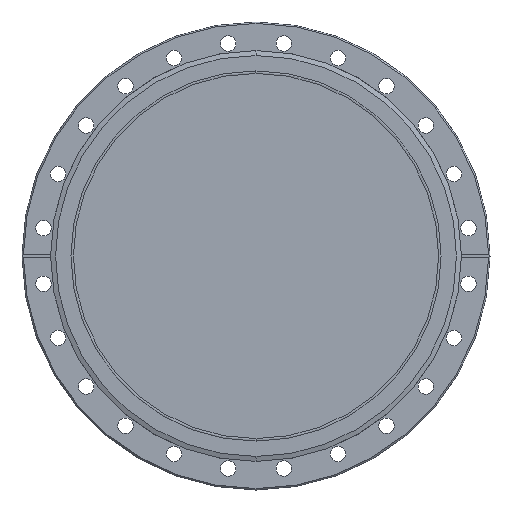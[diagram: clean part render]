
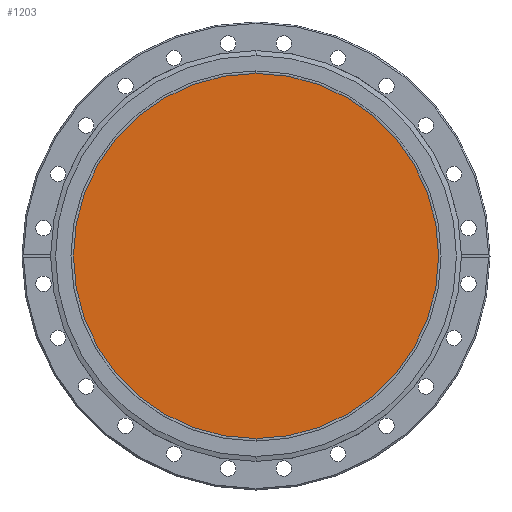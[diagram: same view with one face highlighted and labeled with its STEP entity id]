
A CAD part, left-side view. The second image highlights one B-rep face of the part: STEP entity #1203.
In plain terms, the highlighted planar face has unit normal (-1, 0, 0).
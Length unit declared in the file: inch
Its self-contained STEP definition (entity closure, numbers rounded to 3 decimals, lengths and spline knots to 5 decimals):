
#250 = EDGE_LOOP ( 'NONE', ( #2557, #2449 ) ) ;
#453 = CARTESIAN_POINT ( 'NONE',  ( 0.52999, 0., -3.89 ) ) ;
#463 = CARTESIAN_POINT ( 'NONE',  ( 0.52999, 0., 3.89 ) ) ;
#724 = VERTEX_POINT ( 'NONE', #453 ) ;
#747 = VERTEX_POINT ( 'NONE', #463 ) ;
#1203 = ADVANCED_FACE ( 'NONE', ( #1452 ), #1505, .F. ) ;
#1452 = FACE_OUTER_BOUND ( 'NONE', #250, .T. ) ;
#1498 = DIRECTION ( 'NONE',  ( 0., 0., -1. ) ) ;
#1500 = DIRECTION ( 'NONE',  ( 1., 0., 0. ) ) ;
#1505 = PLANE ( 'NONE',  #1686 ) ;
#1507 = CARTESIAN_POINT ( 'NONE',  ( 0.52999, 0., 0. ) ) ;
#1675 = AXIS2_PLACEMENT_3D ( 'NONE', #1826, #1827, #1828 ) ;
#1677 = AXIS2_PLACEMENT_3D ( 'NONE', #1821, #1822, #1823 ) ;
#1686 = AXIS2_PLACEMENT_3D ( 'NONE', #1507, #1500, #1498 ) ;
#1821 = CARTESIAN_POINT ( 'NONE',  ( 0.52999, 0., 0. ) ) ;
#1822 = DIRECTION ( 'NONE',  ( -1., 0., 0. ) ) ;
#1823 = DIRECTION ( 'NONE',  ( 0., 0., 1. ) ) ;
#1826 = CARTESIAN_POINT ( 'NONE',  ( 0.52999, 0., 0. ) ) ;
#1827 = DIRECTION ( 'NONE',  ( -1., 0., 0. ) ) ;
#1828 = DIRECTION ( 'NONE',  ( 0., 0., 1. ) ) ;
#2259 = CIRCLE ( 'NONE', #1677, 3.89 ) ;
#2262 = CIRCLE ( 'NONE', #1675, 3.89 ) ;
#2449 = ORIENTED_EDGE ( 'NONE', *, *, #2940, .T. ) ;
#2557 = ORIENTED_EDGE ( 'NONE', *, *, #2943, .T. ) ;
#2940 = EDGE_CURVE ( 'NONE', #724, #747, #2259, .T. ) ;
#2943 = EDGE_CURVE ( 'NONE', #747, #724, #2262, .T. ) ;
